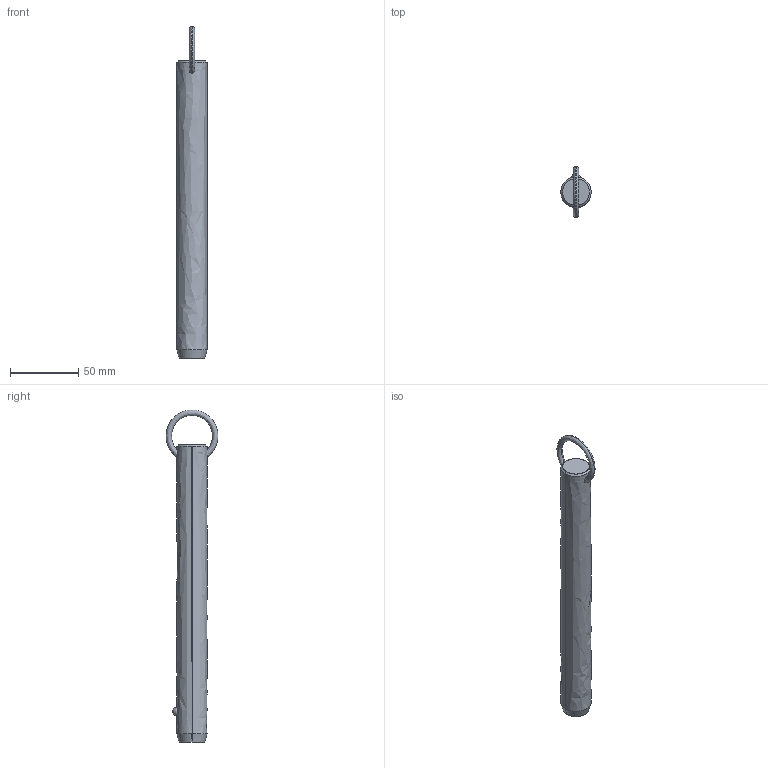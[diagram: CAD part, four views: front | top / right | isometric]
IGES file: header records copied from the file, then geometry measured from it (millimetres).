
Start section: SolidWorks IGES file using analytic representation for surfaces
Global section: file name: C:\Users\liam_\OneDrive\Documents\WORK\Work for WixRoyd\Job Files\J-00019 - Matt Davis CAD Checking\04. CAD Drawings\automotion20190605\P1250.2_v2\P1250.2_v2_20190729_IGES\P1250.087-710.igs; native system: SolidWorks 2017; preprocessor: SolidWorks 2017; author: liam_; date: 190730.172939; units: millimetre
Bounding box: 22.2 x 38.09 x 243.79 mm (x, y, z)
Surface area: 16875.7 mm2 (no closed solid volume)
Topology: 0 solids, 0 shells, 12 faces, 302 edges, 300 vertices
Faces by surface type: revolution 8, bspline 4
